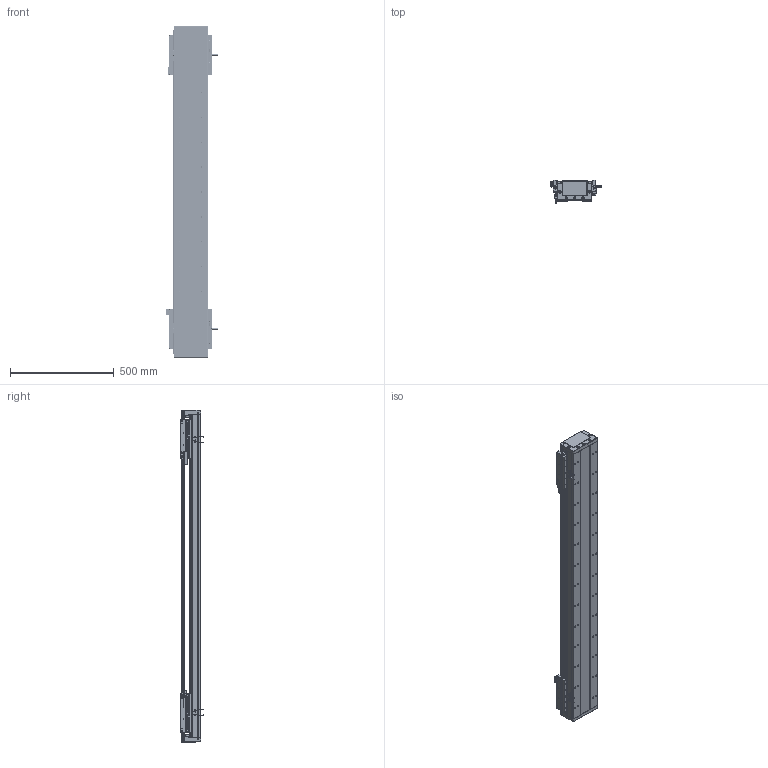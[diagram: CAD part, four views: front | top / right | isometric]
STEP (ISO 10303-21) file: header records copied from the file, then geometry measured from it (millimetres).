
FILE_DESCRIPTION (( 'STEP AP203' ), '1' );
FILE_NAME ('DA-C165-2-C2-T1100-C010-0.2 直线电机.STEP', '2023-05-11T08:20:07', ( '微软用户' ), ( '微软中国' ), 'SwSTEP 2.0', 'SolidWorks 2019', '' );
FILE_SCHEMA (( 'CONFIG_CONTROL_DESIGN' ));
Length unit declared in the file: millimetre
Products named in the file (19): 葩璃 DA95-GT-T-00^IU-CU165-L 菁釱絳寢_T; 复件 DA165-GYP-00 光电感应片^DA-C165-C2-T-C010-0.2-N 直线电机; 复件 DA165-T-002-00 盖板^DA-C165-C2-T-C010-0.2-N 直线电机_0840-002-00; 复件 DA126-GYP-ZJ-00 中间光电感应片^DA-C165-C2-T-C010-0.2-N 直线电机; 葩璃 CKM01-W075-TRL^DA-C165-C2-T-C010-0.2-N 眻盄萇儂; 复件 DKW-HXJ-JY-00 缓冲橡胶^DA-C165-C2-T-C010-0.2-N 直线电机; 复件 DMA-010-0.2 读数头^DA-C165-C2-T-C010-0.2-N 直线电机; IU-CU165-L-00 菁釱_L1560; 复件 66338-1000-006-00 光电感应块^DA-C165-C2-T-C010-0.2-N 直线电机; 复件 XD-U-02L 磁栅尺^DA-C165-C2-T-C010-0.2-N 直线电机_T; 葩璃 PM-Y45^DA-C165-C2-T-C010-0.2-N 眻盄萇儂; 珨极趙賑雄怢啣wf-C2; 复件 CKM02-W075-C1C2-TP-3.0 一体电机-C2^DA-C165-C2-T-C010-0.2-N 直线电机; IU-CU165-L 菁釱絳寢; 复件 六角薄螺母 M3^DA-C165-C2-T-C010-0.2-N 直线电机_GB_FASTENER_NUT_STNAB M3-C; 葩璃 PM-T45^DA-C165-C2-T-C010-0.2-N 眻盄萇儂; 复件 DA165-DG-H-N-00 端盖^DA-C165-C2-T-C010-0.2-N 直线电机; 复件 DA95-HXJ-00 缓冲橡胶^DA-C165-C2-T-C010-0.2-N 直线电机; DA-C165-2-C2-T1100-C010-0.2 眻盄萇儂
Assembly tree (38 placements, depth 3):
  DA-C165-2-C2-T1100-C010-0.2 眻盄萇儂
    IU-CU165-L 菁釱絳寢
      IU-CU165-L-00 菁釱_L1560
      葩璃 DA95-GT-T-00^IU-CU165-L 菁釱絳寢_T  x4
    复件 DA165-DG-H-N-00 端盖^DA-C165-C2-T-C010-0.2-N 直线电机  x2
    复件 DA95-HXJ-00 缓冲橡胶^DA-C165-C2-T-C010-0.2-N 直线电机  x4
    复件 DA165-T-002-00 盖板^DA-C165-C2-T-C010-0.2-N 直线电机_0840-002-00
    复件 XD-U-02L 磁栅尺^DA-C165-C2-T-C010-0.2-N 直线电机_T
    葩璃 PM-T45^DA-C165-C2-T-C010-0.2-N 眻盄萇儂  x4
    葩璃 CKM01-W075-TRL^DA-C165-C2-T-C010-0.2-N 眻盄萇儂
    复件 CKM02-W075-C1C2-TP-3.0 一体电机-C2^DA-C165-C2-T-C010-0.2-N 直线电机  x2
    复件 DMA-010-0.2 读数头^DA-C165-C2-T-C010-0.2-N 直线电机  x2
    复件 DA165-GYP-00 光电感应片^DA-C165-C2-T-C010-0.2-N 直线电机  x2
    复件 66338-1000-006-00 光电感应块^DA-C165-C2-T-C010-0.2-N 直线电机
    葩璃 PM-Y45^DA-C165-C2-T-C010-0.2-N 眻盄萇儂
    复件 DA126-GYP-ZJ-00 中间光电感应片^DA-C165-C2-T-C010-0.2-N 直线电机
    复件 DKW-HXJ-JY-00 缓冲橡胶^DA-C165-C2-T-C010-0.2-N 直线电机  x2
    复件 六角薄螺母 M3^DA-C165-C2-T-C010-0.2-N 直线电机_GB_FASTENER_NUT_STNAB M3-C  x6
    珨极趙賑雄怢啣wf-C2  x2
Bounding box: 247.2 x 111.45 x 1600 mm (x, y, z)
Volume: 12321007.3 mm3; surface area: 3324745.9 mm2
Topology: 115 solids, 115 shells, 5108 faces, 13883 edges, 8682 vertices
Faces by surface type: cylinder 2550, plane 1782, cone 680, torus 88, sphere 8
Entity records: 110556 total; most frequent: CARTESIAN_POINT 26980, ORIENTED_EDGE 17012, DIRECTION 16983, EDGE_CURVE 8506, AXIS2_PLACEMENT_3D 6366, VERTEX_POINT 5519, LINE 4251, VECTOR 4251
